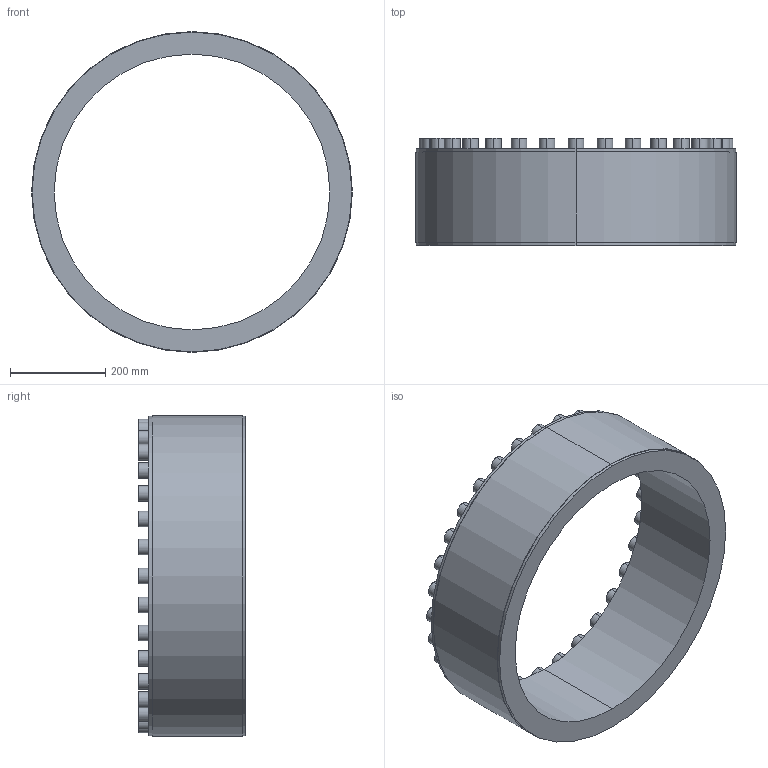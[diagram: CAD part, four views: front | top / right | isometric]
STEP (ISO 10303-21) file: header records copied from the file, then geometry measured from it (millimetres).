
FILE_DESCRIPTION (( 'STEP AP203' ), '1' );
FILE_NAME ('PL-D1 580-675.STEP', '2021-10-23T00:28:38', ( '' ), ( '' ), 'SwSTEP 2.0', 'SolidWorks 2018', '' );
FILE_SCHEMA (( 'CONFIG_CONTROL_DESIGN' ));
Length unit declared in the file: millimetre
Products named in the file (1): PL-D1 580-675
Bounding box: 675 x 225 x 675 mm (x, y, z)
Volume: 19495064.3 mm3; surface area: 1080563.5 mm2
Topology: 1 solids, 1 shells, 396 faces, 920 edges, 592 vertices
Faces by surface type: plane 260, cylinder 72, torus 64
Entity records: 11285 total; most frequent: DIRECTION 1986, CARTESIAN_POINT 1909, ORIENTED_EDGE 1840, EDGE_CURVE 920, AXIS2_PLACEMENT_3D 669, LINE 648, VECTOR 648, VERTEX_POINT 592
